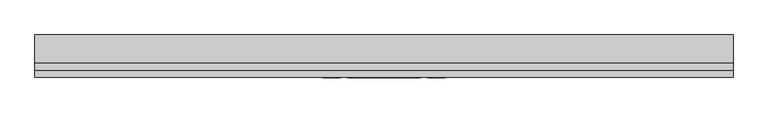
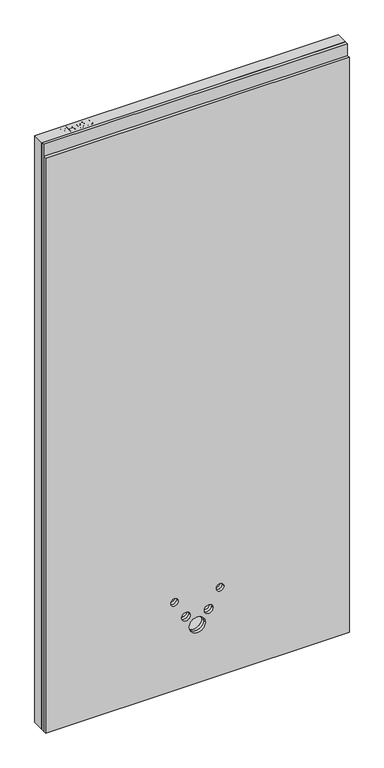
"""IFC4 building model written with IfcOpenShell, lengths in millimetres: proxy geometry, ParedeBidé_Blufab : Parede Bidé- Largura 120 cm."""

from ifc_helpers import new_model, si_unit, point, frame, frame_2d, origin, origin_with_axes, place, context, project, spatial, polyline, circle_curve, trimmed, segment, composite_curve, outline, extrude, source, transform, mapped, element, save


def generic_models_38e5dddb(model_context):
    return source(origin(), model_context, "Body", "SweptSolid", [
        extrude(outline(polyline([(2450.0, 1200.0), (2450.0, 0.0), (0.0, 0.0), (0.0, 1200.0), (2450.0, 1200.0)]), holes=[composite_curve([segment(trimmed(circle_curve(frame_2d((292.0, 555.0)), 17.5), [point((292.0, 572.5))], [point((292.0, 537.5))], True, "CARTESIAN"), True, "CONTINUOUS"), segment(trimmed(circle_curve(frame_2d((292.0, 555.0)), 17.5), [point((292.0, 537.5))], [point((292.0, 572.5))], True, "CARTESIAN"), True, "CONTINUOUS")], self_intersect=False), composite_curve([segment(trimmed(circle_curve(frame_2d((367.0, 510.0)), 15.0), [point((367.0, 525.0))], [point((367.0, 495.0))], True, "CARTESIAN"), True, "CONTINUOUS"), segment(trimmed(circle_curve(frame_2d((367.0, 510.0)), 15.0), [point((367.0, 495.0))], [point((367.0, 525.0))], True, "CARTESIAN"), True, "CONTINUOUS")], self_intersect=False), composite_curve([segment(trimmed(circle_curve(frame_2d((242.0, 600.0)), 32.0), [point((242.0, 632.0))], [point((242.0, 568.0))], True, "CARTESIAN"), True, "CONTINUOUS"), segment(trimmed(circle_curve(frame_2d((242.0, 600.0)), 32.0), [point((242.0, 568.0))], [point((242.0, 632.0))], True, "CARTESIAN"), True, "CONTINUOUS")], self_intersect=False), composite_curve([segment(trimmed(circle_curve(frame_2d((292.0, 645.0)), 17.5), [point((292.0, 662.5))], [point((292.0, 627.5))], True, "CARTESIAN"), True, "CONTINUOUS"), segment(trimmed(circle_curve(frame_2d((292.0, 645.0)), 17.5), [point((292.0, 627.5))], [point((292.0, 662.5))], True, "CARTESIAN"), True, "CONTINUOUS")], self_intersect=False), composite_curve([segment(trimmed(circle_curve(frame_2d((367.0, 690.0)), 15.0), [point((367.0, 705.0))], [point((367.0, 675.0))], True, "CARTESIAN"), True, "CONTINUOUS"), segment(trimmed(circle_curve(frame_2d((367.0, 690.0)), 15.0), [point((367.0, 675.0))], [point((367.0, 705.0))], True, "CARTESIAN"), True, "CONTINUOUS")], self_intersect=False)]), frame((0.0, 25.0126803, 0.0), z_axis=(0.0, 1.0, 0.0), x_axis=(0.0, 0.0, 1.0)), (0.0, 0.0, 1.0), 47.9873197),
        extrude(outline(polyline([(2450.0, 1200.0), (2450.0, 0.0), (0.0, 0.0), (0.0, 1200.0), (2450.0, 1200.0)]), holes=[composite_curve([segment(trimmed(circle_curve(frame_2d((292.0, 555.0)), 17.5), [point((292.0, 572.5))], [point((292.0, 537.5))], True, "CARTESIAN"), True, "CONTINUOUS"), segment(trimmed(circle_curve(frame_2d((292.0, 555.0)), 17.5), [point((292.0, 537.5))], [point((292.0, 572.5))], True, "CARTESIAN"), True, "CONTINUOUS")], self_intersect=False), composite_curve([segment(trimmed(circle_curve(frame_2d((367.0, 510.0)), 15.0), [point((367.0, 525.0))], [point((367.0, 495.0))], True, "CARTESIAN"), True, "CONTINUOUS"), segment(trimmed(circle_curve(frame_2d((367.0, 510.0)), 15.0), [point((367.0, 495.0))], [point((367.0, 525.0))], True, "CARTESIAN"), True, "CONTINUOUS")], self_intersect=False), composite_curve([segment(trimmed(circle_curve(frame_2d((242.0, 600.0)), 32.0), [point((242.0, 632.0))], [point((242.0, 568.0))], True, "CARTESIAN"), True, "CONTINUOUS"), segment(trimmed(circle_curve(frame_2d((242.0, 600.0)), 32.0), [point((242.0, 568.0))], [point((242.0, 632.0))], True, "CARTESIAN"), True, "CONTINUOUS")], self_intersect=False), composite_curve([segment(trimmed(circle_curve(frame_2d((292.0, 645.0)), 17.5), [point((292.0, 662.5))], [point((292.0, 627.5))], True, "CARTESIAN"), True, "CONTINUOUS"), segment(trimmed(circle_curve(frame_2d((292.0, 645.0)), 17.5), [point((292.0, 627.5))], [point((292.0, 662.5))], True, "CARTESIAN"), True, "CONTINUOUS")], self_intersect=False), composite_curve([segment(trimmed(circle_curve(frame_2d((367.0, 690.0)), 15.0), [point((367.0, 705.0))], [point((367.0, 675.0))], True, "CARTESIAN"), True, "CONTINUOUS"), segment(trimmed(circle_curve(frame_2d((367.0, 690.0)), 15.0), [point((367.0, 675.0))], [point((367.0, 705.0))], True, "CARTESIAN"), True, "CONTINUOUS")], self_intersect=False)]), frame((0.0, 12.5126803, 0.0), z_axis=(0.0, 1.0, 0.0), x_axis=(0.0, 0.0, 1.0)), (0.0, 0.0, 1.0), 12.5),
        extrude(outline(polyline([(2400.0, 1200.0), (2400.0, 0.0), (0.0, 0.0), (0.0, 1200.0), (2400.0, 1200.0)]), holes=[composite_curve([segment(trimmed(circle_curve(frame_2d((292.0, 555.0)), 17.5), [point((292.0, 572.5))], [point((292.0, 537.5))], True, "CARTESIAN"), True, "CONTINUOUS"), segment(trimmed(circle_curve(frame_2d((292.0, 555.0)), 17.5), [point((292.0, 537.5))], [point((292.0, 572.5))], True, "CARTESIAN"), True, "CONTINUOUS")], self_intersect=False), composite_curve([segment(trimmed(circle_curve(frame_2d((367.0, 510.0)), 15.0), [point((367.0, 525.0))], [point((367.0, 495.0))], True, "CARTESIAN"), True, "CONTINUOUS"), segment(trimmed(circle_curve(frame_2d((367.0, 510.0)), 15.0), [point((367.0, 495.0))], [point((367.0, 525.0))], True, "CARTESIAN"), True, "CONTINUOUS")], self_intersect=False), composite_curve([segment(trimmed(circle_curve(frame_2d((242.0, 600.0)), 32.0), [point((242.0, 632.0))], [point((242.0, 568.0))], True, "CARTESIAN"), True, "CONTINUOUS"), segment(trimmed(circle_curve(frame_2d((242.0, 600.0)), 32.0), [point((242.0, 568.0))], [point((242.0, 632.0))], True, "CARTESIAN"), True, "CONTINUOUS")], self_intersect=False), composite_curve([segment(trimmed(circle_curve(frame_2d((292.0, 645.0)), 17.5), [point((292.0, 662.5))], [point((292.0, 627.5))], True, "CARTESIAN"), True, "CONTINUOUS"), segment(trimmed(circle_curve(frame_2d((292.0, 645.0)), 17.5), [point((292.0, 627.5))], [point((292.0, 662.5))], True, "CARTESIAN"), True, "CONTINUOUS")], self_intersect=False), composite_curve([segment(trimmed(circle_curve(frame_2d((367.0, 690.0)), 15.0), [point((367.0, 705.0))], [point((367.0, 675.0))], True, "CARTESIAN"), True, "CONTINUOUS"), segment(trimmed(circle_curve(frame_2d((367.0, 690.0)), 15.0), [point((367.0, 675.0))], [point((367.0, 705.0))], True, "CARTESIAN"), True, "CONTINUOUS")], self_intersect=False)]), frame((0.0, 0.0, 0.0), z_axis=(0.0, 1.0, 0.0), x_axis=(0.0, 0.0, 1.0)), (0.0, 0.0, 1.0), 12.5),
        extrude(outline(polyline([(90.9034363, 34.0063401), (90.9034363, 64.1432332), (102.0723337, 64.1432332), (106.5752093, 63.8562852), (110.2356351, 62.4472972), (112.608474, 59.5336718), (113.5061061, 55.4244299), (111.0817637, 48.9129186), (102.3298511, 46.2494529), (94.6705479, 46.2494529), (94.6705479, 34.0063401), (90.9034363, 34.0063401)]), holes=[polyline([(94.6705479, 50.0165646), (102.5505803, 50.0165646), (108.0982407, 51.3998009), (109.7389944, 55.2919924), (108.7714648, 58.4116317), (106.2294002, 60.1186041), (102.4622886, 60.3761215), (94.6705479, 60.3761215), (94.6705479, 50.0165646)])]), origin_with_axes(), (0.0, 0.0, 1.0), 2450.0),
        extrude(outline(polyline([(118.6858846, 34.0063401), (118.6858846, 64.1432332), (130.1858757, 64.1432332), (135.8181491, 63.2566376), (139.1438023, 60.530632), (140.3467764, 56.6752287), (139.335101, 53.154598), (136.2780016, 50.4874535), (139.9899309, 47.6768351), (141.2885544, 42.9900185), (140.4019587, 38.9396377), (138.2057032, 36.0554428), (134.9278747, 34.5250537), (130.0975841, 34.0063401), (118.6858846, 34.0063401)]), holes=[polyline([(122.4529962, 51.9001204), (129.3323895, 51.9001204), (133.3496609, 52.2238565), (135.7666456, 53.6181293), (136.5796648, 56.0719022), (135.8218279, 58.5293539), (133.6513241, 59.9824878), (128.8099971, 60.3761215), (122.4529962, 60.3761215), (122.4529962, 51.9001204)]), polyline([(122.4529962, 37.7734518), (130.1785181, 37.7734518), (132.9744213, 37.9206046), (135.3399025, 38.7409814), (136.9070798, 40.4148445), (137.5214427, 42.9532303), (136.800394, 45.8815709), (134.4643433, 47.6290104), (129.8106361, 48.1330087), (122.4529962, 48.1330087), (122.4529962, 37.7734518)])]), origin_with_axes(), (0.0, 0.0, 1.0), 2450.0),
        extrude(outline(polyline([(159.1823346, 34.0063401), (155.415223, 34.0063401), (155.415223, 57.4919267), (151.8467676, 54.9498621), (147.8809997, 53.0479122), (147.8809997, 56.6090099), (153.4029085, 60.1333194), (156.7543134, 64.1432332), (159.1823346, 64.1432332), (159.1823346, 34.0063401)])), origin_with_axes(), (0.0, 0.0, 1.0), 2450.0),
        extrude(outline(polyline([(187.4356718, 37.7734518), (187.4356718, 34.0063401), (167.6583358, 34.0063401), (168.063006, 36.603587), (170.351232, 40.6024643), (175.0674792, 44.9692236), (181.5716328, 51.2452904), (183.1976712, 55.5127216), (181.6636033, 58.9671335), (177.6573684, 60.3761215), (173.4819078, 59.0002429), (171.8963364, 55.1963431), (168.1292247, 55.667232), (171.0170984, 61.9727294), (177.7383024, 64.1432332), (184.4815794, 61.7299273), (186.9647829, 55.7408084), (186.2952376, 52.1686742), (184.0695516, 48.475139), (178.6727227, 43.3137546), (174.3390728, 39.690117), (172.639458, 37.7734518), (187.4356718, 37.7734518)])), origin_with_axes(), (0.0, 0.0, 1.0), 2450.0),
        extrude(outline(polyline([(191.2027835, 48.8319845), (192.3101083, 57.5029632), (195.5989733, 62.5024795), (201.0914515, 64.1432332), (205.4913202, 63.1720247), (208.5300254, 60.3724427), (210.295859, 55.9137129), (210.9801195, 48.8319845), (209.8838312, 40.1977941), (206.6060026, 35.1872413), (201.0914515, 33.5354512), (194.2047005, 36.4049307), (191.2027835, 48.8319845)]), holes=[polyline([(194.9698951, 48.8393422), (196.7357287, 39.484103), (201.0914515, 37.3025628), (205.4471743, 39.4914607), (207.2130079, 48.8393422), (205.5060354, 58.0878955), (201.0473057, 60.3761215), (196.7945898, 58.3601282), (194.9698951, 48.8393422)])]), origin_with_axes(), (0.0, 0.0, 1.0), 2450.0),
    ])


if __name__ == "__main__":
    model = new_model("IFC4")
    model_context = context("Model", 3, world=origin())
    ifc_project = project(units=[si_unit("LENGTHUNIT", "METRE", prefix="MILLI")], contexts=[model_context])
    site = spatial("IfcSite", under=ifc_project)
    building = spatial("IfcBuilding", under=site)
    placement = place(None, origin())
    generic_models_shape = generic_models_38e5dddb(model_context)
    element("IfcBuildingElementProxy", 1, Name="ParedeBidé_Blufab : Parede Bidé- Largura 120 cm", ObjectType="ParedeBidé_Blufab : Parede Bidé- Largura 120 cm", at=placement, inside=building, context=model_context, shape_type="MappedRepresentation", body=[
        mapped(generic_models_shape, transform((0.0, 0.0, 0.0), x_axis=(1.0, 0.0, 0.0), y_axis=(0.0, 1.0, 0.0), z_axis=(0.0, 0.0, 1.0))),
    ])
    save(model, "model.ifc")
